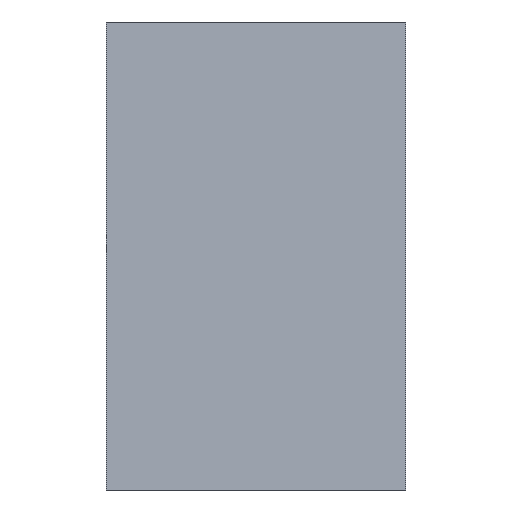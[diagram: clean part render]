
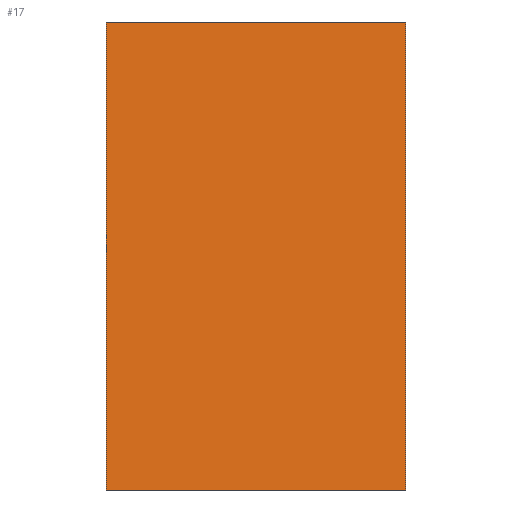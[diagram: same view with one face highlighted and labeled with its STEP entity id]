
A CAD part, front view. The second image highlights one B-rep face of the part: STEP entity #17.
In plain terms, the highlighted planar face has unit normal (0, -0.995, 0.104).
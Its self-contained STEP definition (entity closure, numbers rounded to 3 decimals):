
#17 = ADVANCED_FACE('',(#18),#32,.F.);
#18 = FACE_BOUND('',#19,.T.);
#19 = EDGE_LOOP('',(#20,#55,#83,#111));
#20 = ORIENTED_EDGE('',*,*,#21,.F.);
#21 = EDGE_CURVE('',#22,#24,#26,.T.);
#22 = VERTEX_POINT('',#23);
#23 = CARTESIAN_POINT('',(1.,-7.619,-31.25));
#24 = VERTEX_POINT('',#25);
#25 = CARTESIAN_POINT('',(1.,-4.335,0.));
#26 = SURFACE_CURVE('',#27,(#31,#43),.PCURVE_S1.);
#27 = LINE('',#28,#29);
#28 = CARTESIAN_POINT('',(1.,-9.38,-48.));
#29 = VECTOR('',#30,1.);
#30 = DIRECTION('',(-0.,0.105,0.995));
#31 = PCURVE('',#32,#37);
#32 = PLANE('',#33);
#33 = AXIS2_PLACEMENT_3D('',#34,#35,#36);
#34 = CARTESIAN_POINT('',(1.,-9.38,-48.));
#35 = DIRECTION('',(0.,0.995,-0.105));
#36 = DIRECTION('',(0.,-0.105,-0.995));
#37 = DEFINITIONAL_REPRESENTATION('',(#38),#42);
#38 = LINE('',#39,#40);
#39 = CARTESIAN_POINT('',(-0.,0.));
#40 = VECTOR('',#41,1.);
#41 = DIRECTION('',(-1.,0.));
#42 = ( GEOMETRIC_REPRESENTATION_CONTEXT(2) 
PARAMETRIC_REPRESENTATION_CONTEXT() REPRESENTATION_CONTEXT('2D SPACE',''
  ) );
#43 = PCURVE('',#44,#49);
#44 = PLANE('',#45);
#45 = AXIS2_PLACEMENT_3D('',#46,#47,#48);
#46 = CARTESIAN_POINT('',(1.,-3.543,-11.5));
#47 = DIRECTION('',(1.,-0.,-0.));
#48 = DIRECTION('',(0.,0.,-1.));
#49 = DEFINITIONAL_REPRESENTATION('',(#50),#54);
#50 = LINE('',#51,#52);
#51 = CARTESIAN_POINT('',(36.5,-5.836));
#52 = VECTOR('',#53,1.);
#53 = DIRECTION('',(-0.995,0.105));
#54 = ( GEOMETRIC_REPRESENTATION_CONTEXT(2) 
PARAMETRIC_REPRESENTATION_CONTEXT() REPRESENTATION_CONTEXT('2D SPACE',''
  ) );
#55 = ORIENTED_EDGE('',*,*,#56,.F.);
#56 = EDGE_CURVE('',#57,#22,#59,.T.);
#57 = VERTEX_POINT('',#58);
#58 = CARTESIAN_POINT('',(21.,-7.619,-31.25));
#59 = SURFACE_CURVE('',#60,(#64,#71),.PCURVE_S1.);
#60 = LINE('',#61,#62);
#61 = CARTESIAN_POINT('',(-199.5,-7.619,-31.25));
#62 = VECTOR('',#63,1.);
#63 = DIRECTION('',(-1.,-0.,0.));
#64 = PCURVE('',#32,#65);
#65 = DEFINITIONAL_REPRESENTATION('',(#66),#70);
#66 = LINE('',#67,#68);
#67 = CARTESIAN_POINT('',(-16.842,200.5));
#68 = VECTOR('',#69,1.);
#69 = DIRECTION('',(-0.,1.));
#70 = ( GEOMETRIC_REPRESENTATION_CONTEXT(2) 
PARAMETRIC_REPRESENTATION_CONTEXT() REPRESENTATION_CONTEXT('2D SPACE',''
  ) );
#71 = PCURVE('',#72,#77);
#72 = PLANE('',#73);
#73 = AXIS2_PLACEMENT_3D('',#74,#75,#76);
#74 = CARTESIAN_POINT('',(-400.,388.,-31.25));
#75 = DIRECTION('',(0.,0.,1.));
#76 = DIRECTION('',(-1.,-0.,0.));
#77 = DEFINITIONAL_REPRESENTATION('',(#78),#82);
#78 = LINE('',#79,#80);
#79 = CARTESIAN_POINT('',(-200.5,395.619));
#80 = VECTOR('',#81,1.);
#81 = DIRECTION('',(1.,-0.));
#82 = ( GEOMETRIC_REPRESENTATION_CONTEXT(2) 
PARAMETRIC_REPRESENTATION_CONTEXT() REPRESENTATION_CONTEXT('2D SPACE',''
  ) );
#83 = ORIENTED_EDGE('',*,*,#84,.T.);
#84 = EDGE_CURVE('',#57,#85,#87,.T.);
#85 = VERTEX_POINT('',#86);
#86 = CARTESIAN_POINT('',(21.,-4.335,0.));
#87 = SURFACE_CURVE('',#88,(#92,#99),.PCURVE_S1.);
#88 = LINE('',#89,#90);
#89 = CARTESIAN_POINT('',(21.,-9.38,-48.));
#90 = VECTOR('',#91,1.);
#91 = DIRECTION('',(-0.,0.105,0.995));
#92 = PCURVE('',#32,#93);
#93 = DEFINITIONAL_REPRESENTATION('',(#94),#98);
#94 = LINE('',#95,#96);
#95 = CARTESIAN_POINT('',(-0.,-20.));
#96 = VECTOR('',#97,1.);
#97 = DIRECTION('',(-1.,0.));
#98 = ( GEOMETRIC_REPRESENTATION_CONTEXT(2) 
PARAMETRIC_REPRESENTATION_CONTEXT() REPRESENTATION_CONTEXT('2D SPACE',''
  ) );
#99 = PCURVE('',#100,#105);
#100 = PLANE('',#101);
#101 = AXIS2_PLACEMENT_3D('',#102,#103,#104);
#102 = CARTESIAN_POINT('',(21.,-3.543,-11.5));
#103 = DIRECTION('',(1.,-0.,-0.));
#104 = DIRECTION('',(0.,0.,-1.));
#105 = DEFINITIONAL_REPRESENTATION('',(#106),#110);
#106 = LINE('',#107,#108);
#107 = CARTESIAN_POINT('',(36.5,-5.836));
#108 = VECTOR('',#109,1.);
#109 = DIRECTION('',(-0.995,0.105));
#110 = ( GEOMETRIC_REPRESENTATION_CONTEXT(2) 
PARAMETRIC_REPRESENTATION_CONTEXT() REPRESENTATION_CONTEXT('2D SPACE',''
  ) );
#111 = ORIENTED_EDGE('',*,*,#112,.T.);
#112 = EDGE_CURVE('',#85,#24,#113,.T.);
#113 = SURFACE_CURVE('',#114,(#118,#125),.PCURVE_S1.);
#114 = LINE('',#115,#116);
#115 = CARTESIAN_POINT('',(-199.5,-4.335,0.));
#116 = VECTOR('',#117,1.);
#117 = DIRECTION('',(-1.,-0.,0.));
#118 = PCURVE('',#32,#119);
#119 = DEFINITIONAL_REPRESENTATION('',(#120),#124);
#120 = LINE('',#121,#122);
#121 = CARTESIAN_POINT('',(-48.264,200.5));
#122 = VECTOR('',#123,1.);
#123 = DIRECTION('',(-0.,1.));
#124 = ( GEOMETRIC_REPRESENTATION_CONTEXT(2) 
PARAMETRIC_REPRESENTATION_CONTEXT() REPRESENTATION_CONTEXT('2D SPACE',''
  ) );
#125 = PCURVE('',#126,#131);
#126 = PLANE('',#127);
#127 = AXIS2_PLACEMENT_3D('',#128,#129,#130);
#128 = CARTESIAN_POINT('',(-400.,388.,0.));
#129 = DIRECTION('',(0.,0.,1.));
#130 = DIRECTION('',(-1.,-0.,0.));
#131 = DEFINITIONAL_REPRESENTATION('',(#132),#136);
#132 = LINE('',#133,#134);
#133 = CARTESIAN_POINT('',(-200.5,392.335));
#134 = VECTOR('',#135,1.);
#135 = DIRECTION('',(1.,-0.));
#136 = ( GEOMETRIC_REPRESENTATION_CONTEXT(2) 
PARAMETRIC_REPRESENTATION_CONTEXT() REPRESENTATION_CONTEXT('2D SPACE',''
  ) );
